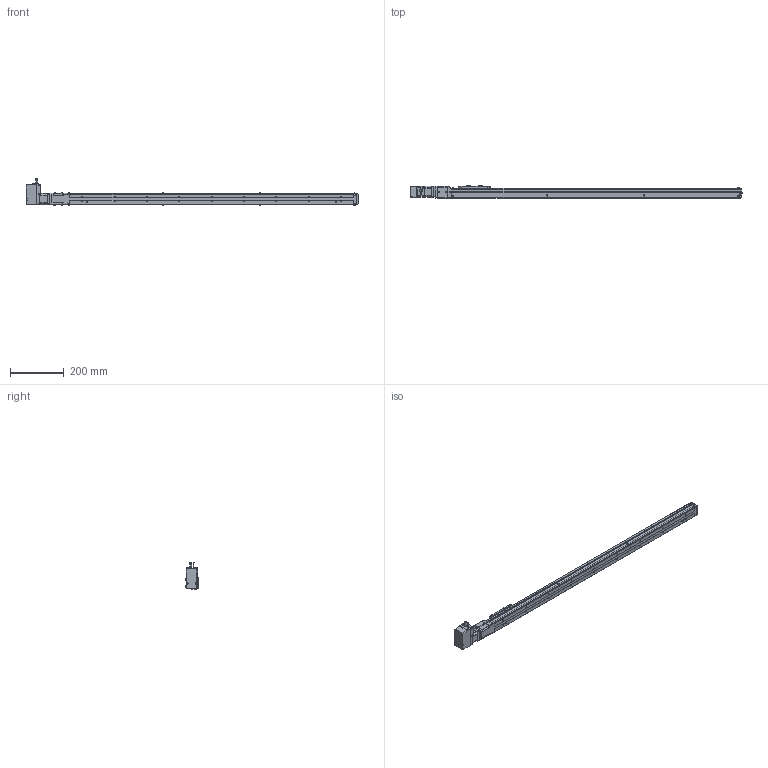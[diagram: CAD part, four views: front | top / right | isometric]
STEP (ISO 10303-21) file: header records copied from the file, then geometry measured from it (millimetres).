
FILE_DESCRIPTION(('FreeCAD Model'),'2;1');
FILE_NAME('Open CASCADE Shape Model','2023-08-01T18:40:44',('Author'),( ''),'Open CASCADE STEP processor 7.5','FreeCAD','Unknown');
FILE_SCHEMA(('AUTOMOTIVE_DESIGN { 1 0 10303 214 1 1 1 1 }'));
Length unit declared in the file: millimetre
Products named in the file (20): RCB0411; Shapes; Shapes001; Shapes002; Shapes003; Shapes004; Shapes005; Shapes006; Shapes007; Shapes008; Shapes009; Shapes010; Shapes011; Shapes012; Shapes013; KSF4-10-0900-0-AR(0); KSF4---(Cover); KSF4-AR---(Motor bracket); KSF4-10-0900---(slider); KSF4-10-0900-0-AR-(09000ARNo0)---(body)
Assembly tree (19 placements, depth 3):
  RCB0411
    Shapes
    Shapes001
    Shapes002
    Shapes003
    Shapes004
    Shapes005
    Shapes006
    Shapes007
    Shapes008
    Shapes009
    Shapes010
    Shapes011
    Shapes012
    Shapes013
    KSF4-10-0900-0-AR(0)
      KSF4---(Cover)
      KSF4-AR---(Motor bracket)
      KSF4-10-0900---(slider)
      KSF4-10-0900-0-AR-(09000ARNo0)---(body)
Bounding box: 1232 x 46 x 98.19 mm (x, y, z)
Volume: 1931670 mm3; surface area: 355717.1 mm2
Topology: 18 solids, 18 shells, 1317 faces, 3378 edges, 2204 vertices
Faces by surface type: plane 727, cylinder 440, cone 68, torus 53, bspline 19, revolution 6, sphere 4
Full cylindrical faces by diameter (mm): 2.113 x8, 2.459 x3, 3 x6, 3.242 x4, 3.4 x22, 4 x3, 4.5 x2, 5.5 x8, 6 x1, 6.5 x24, 8 x1, 12 x1, 22 x1, 28 x1, 30 x2
Entity records: 95570 total; most frequent: CARTESIAN_POINT 27314, DIRECTION 12833, LINE 7591, VECTOR 7591, ORIENTED_EDGE 6720, PCURVE 6720, DEFINITIONAL_REPRESENTATION 6720, EDGE_CURVE 3360
